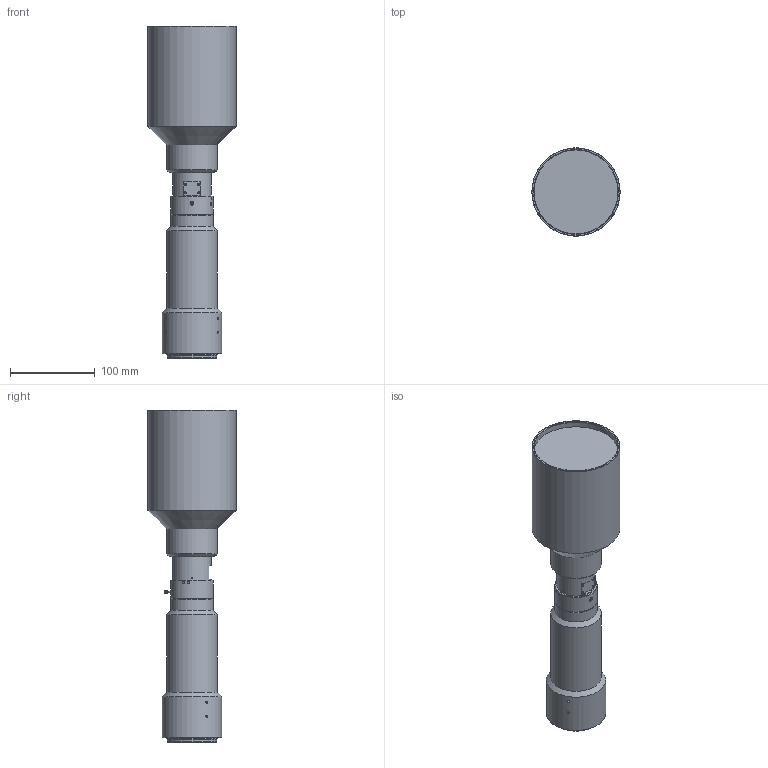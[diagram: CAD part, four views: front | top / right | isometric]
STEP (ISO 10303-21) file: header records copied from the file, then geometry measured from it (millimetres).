
FILE_DESCRIPTION (( 'STEP AP203' ), '1' );
FILE_NAME ('drawing_mtl-8043m58-054.STEP', '2016-12-01T09:52:44', ( '' ), ( '' ), 'SwSTEP 2.0', 'SolidWorks 2014', '' );
FILE_SCHEMA (( 'CONFIG_CONTROL_DESIGN' ));
Length unit declared in the file: millimetre
Products named in the file (1): drawing_mtl-8043m58-054
Bounding box: 104 x 104 x 391.43 mm (x, y, z)
Volume: 1750177.1 mm3; surface area: 112016.8 mm2
Topology: 1 solids, 1 shells, 339 faces, 884 edges, 587 vertices
Faces by surface type: plane 143, cylinder 123, cone 37, bspline 36
Full cylindrical faces by diameter (mm): 1.548 x1, 2 x3, 2.5 x10, 3 x2, 4 x1, 4.5 x1, 45 x2, 45.5 x2, 50 x2, 52 x1, 57.2 x1, 58 x1, 60 x2, 61 x1, 70 x1, 98.92 x1, 104 x1
Entity records: 18129 total; most frequent: CARTESIAN_POINT 10871, ORIENTED_EDGE 1584, DIRECTION 1170, EDGE_CURVE 792, VERTEX_POINT 556, AXIS2_PLACEMENT_3D 441, EDGE_LOOP 440, FACE_OUTER_BOUND 372
